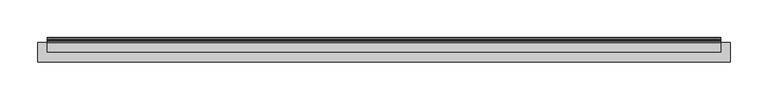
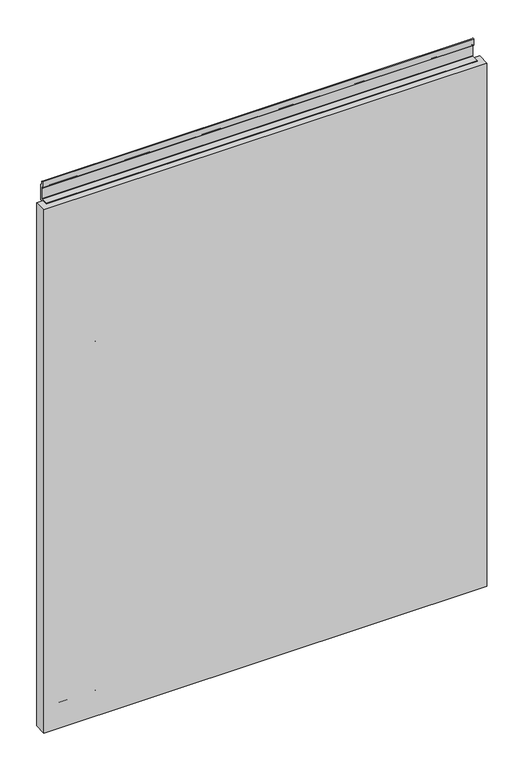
"""IFC4 building model written with IfcOpenShell, lengths in millimetres: furniture geometry, Geiger_GeigerOneCasegoods_WallTileAcceptsTileAboveFabric : Fabric 36Wx 1.25Dx 45H."""

from ifc_helpers import new_model, si_unit, point, frame, frame_2d, origin, origin_with_axes, place, context, project, spatial, polyline, circle_curve, trimmed, segment, composite_curve, outline, extrude, source, transform, mapped, element, save


def furniture_95511676(model_context):
    return source(origin(), model_context, "Body", "SweptSolid", [
        extrude(outline(composite_curve([segment(polyline([(-3.5052, 46.3366), (-2.6924, 45.5238), (-0.8128, 45.5238), (0.0, 44.7364), (0.0, 31.3197095)]), True, "CONTINUOUS"), segment(trimmed(circle_curve(frame_2d((-0.7973236, 31.3197095)), 0.7973236), [point((0.0, 31.3197095))], [point((-1.3611166, 30.7559166))], False, "CARTESIAN"), True, "CONTINUOUS"), segment(polyline([(-1.3611166, 30.7559166), (-2.8956, 32.2904), (-2.8956, 39.2246), (-3.7084, 40.012), (-5.6134, 40.012), (-6.4008, 40.8248), (-6.4008, 72.524), (-5.1054, 72.524), (-3.5052, 70.9238), (-3.5052, 46.3366)]), True, "CONTINUOUS")], self_intersect=False)), frame((50.0016, 0.0, 0.0), z_axis=(1.0, 0.0, 0.0), x_axis=(0.0, 1.0, 0.0)), (0.0, 0.0, 1.0), 75.9968),
        extrude(outline(composite_curve([segment(polyline([(-3.5052, 808.2186), (-2.6924, 807.4058), (-0.8128, 807.4058), (0.0, 806.6184), (0.0, 793.2017095)]), True, "CONTINUOUS"), segment(trimmed(circle_curve(frame_2d((-0.7973236, 793.2017095)), 0.7973236), [point((0.0, 793.2017095))], [point((-1.3611166, 792.6379166))], False, "CARTESIAN"), True, "CONTINUOUS"), segment(polyline([(-1.3611166, 792.6379166), (-2.8956, 794.1724), (-2.8956, 801.1066), (-3.7084, 801.894), (-5.6134, 801.894), (-6.4008, 802.7068), (-6.4008, 834.406), (-5.1054, 834.406), (-3.5052, 832.8058), (-3.5052, 808.2186)]), True, "CONTINUOUS")], self_intersect=False)), frame((50.0016, 0.0, 0.0), z_axis=(1.0, 0.0, 0.0), x_axis=(0.0, 1.0, 0.0)), (0.0, 0.0, 1.0), 75.9968),
        extrude(outline(composite_curve([segment(polyline([(-3.5052, 808.2186), (-2.6924, 807.4058), (-0.8128, 807.4058), (0.0, 806.6184), (0.0, 793.2017095)]), True, "CONTINUOUS"), segment(trimmed(circle_curve(frame_2d((-0.7973236, 793.2017095)), 0.7973236), [point((0.0, 793.2017095))], [point((-1.3611166, 792.6379166))], False, "CARTESIAN"), True, "CONTINUOUS"), segment(polyline([(-1.3611166, 792.6379166), (-2.8956, 794.1724), (-2.8956, 801.1066), (-3.7084, 801.894), (-5.6134, 801.894), (-6.4008, 802.7068), (-6.4008, 834.406), (-5.1054, 834.406), (-3.5052, 832.8058), (-3.5052, 808.2186)]), True, "CONTINUOUS")], self_intersect=False)), frame((788.4016, 0.0, 0.0), z_axis=(1.0, 0.0, 0.0), x_axis=(0.0, 1.0, 0.0)), (0.0, 0.0, 1.0), 75.9968),
        extrude(outline(composite_curve([segment(polyline([(-3.506, 800.1156), (-3.506, 793.1814), (-2.6932, 792.394), (-0.7882, 792.394), (-0.0008, 791.5812), (-0.0008, 759.882), (-1.2962, 759.882), (-2.8964, 761.4822), (-2.8964, 786.0694), (-3.7092, 786.8822), (-5.5888, 786.8822), (-6.4016, 787.6696), (-6.4016, 801.0883458)]), True, "CONTINUOUS"), segment(trimmed(circle_curve(frame_2d((-5.6051277, 801.0883458)), 0.7964723), [point((-6.4016, 801.0883458))], [point((-5.0419368, 801.6515368))], False, "CARTESIAN"), True, "CONTINUOUS"), segment(polyline([(-5.0419368, 801.6515368), (-3.506, 800.1156)]), True, "CONTINUOUS")], self_intersect=False)), frame((12.5, 0.0, 0.0), z_axis=(1.0, 0.0, 0.0), x_axis=(0.0, 1.0, 0.0)), (0.0, 0.0, 1.0), 889.4),
        extrude(outline(polyline([(914.4, -6.4008), (914.4, -32.4008), (0.0, -32.4008), (0.0, -6.4008), (914.4, -6.4008)])), origin_with_axes(), (0.0, 0.0, 1.0), 1142.0),
        extrude(outline(composite_curve([segment(polyline([(-3.5052, 46.3366), (-2.6924, 45.5238), (-0.8128, 45.5238), (0.0, 44.7364), (0.0, 31.3197095)]), True, "CONTINUOUS"), segment(trimmed(circle_curve(frame_2d((-0.7973236, 31.3197095)), 0.7973236), [point((0.0, 31.3197095))], [point((-1.3611166, 30.7559166))], False, "CARTESIAN"), True, "CONTINUOUS"), segment(polyline([(-1.3611166, 30.7559166), (-2.8956, 32.2904), (-2.8956, 39.2246), (-3.7084, 40.012), (-5.6134, 40.012), (-6.4008, 40.8248), (-6.4008, 72.524), (-5.1054, 72.524), (-3.5052, 70.9238), (-3.5052, 46.3366)]), True, "CONTINUOUS")], self_intersect=False)), frame((788.4, 0.0, 0.0), z_axis=(1.0, 0.0, 0.0), x_axis=(0.0, 1.0, 0.0)), (0.0, 0.0, 1.0), 76.0),
        extrude(outline(composite_curve([segment(polyline([(-3.5052, 1182.2336), (-3.5052, 1175.2994), (-2.7178, 1174.512), (-0.8128, 1174.512), (0.0, 1173.6992), (0.0, 1140.3998), (-2.6924, 1140.3998), (-3.5052, 1139.6124), (-3.5052, 1125.8964), (-2.6924, 1125.109), (0.0, 1125.109), (0.0, 1122.188), (-5.6134, 1122.188), (-6.4008, 1123.0008), (-6.4008, 1142.0), (-18.9992, 1142.0), (-18.9992, 1143.6002), (-3.7084, 1143.6002), (-2.8956, 1144.3876), (-2.8956, 1168.2128), (-3.7084, 1169.0002), (-5.6134, 1169.0002), (-6.4008, 1169.813), (-6.4008, 1183.2057925)]), True, "CONTINUOUS"), segment(trimmed(circle_curve(frame_2d((-5.6040985, 1183.2057925)), 0.7967015), [point((-6.4008, 1183.2057925))], [point((-5.0407455, 1183.7691455))], False, "CARTESIAN"), True, "CONTINUOUS"), segment(polyline([(-5.0407455, 1183.7691455), (-3.5052, 1182.2336)]), True, "CONTINUOUS")], self_intersect=False)), frame((12.5, 0.0, 0.0), z_axis=(1.0, 0.0, 0.0), x_axis=(0.0, 1.0, 0.0)), (0.0, 0.0, 1.0), 889.4),
    ])


if __name__ == "__main__":
    model = new_model("IFC4")
    model_context = context("Model", 3, world=origin())
    ifc_project = project(units=[si_unit("LENGTHUNIT", "METRE", prefix="MILLI")], contexts=[model_context])
    site = spatial("IfcSite", under=ifc_project)
    building = spatial("IfcBuilding", under=site)
    placement = place(None, origin())
    furniture_shape = furniture_95511676(model_context)
    element("IfcFurniture", 1, ObjectType="Geiger_GeigerOneCasegoods_WallTileAcceptsTileAboveFabric : Fabric 36Wx 1.25Dx 45H", at=placement, inside=building, context=model_context, shape_type="MappedRepresentation", body=[
        mapped(furniture_shape, transform((0.0, 0.0, 0.0), x_axis=(1.0, 0.0, 0.0), y_axis=(0.0, 1.0, 0.0), z_axis=(0.0, 0.0, 1.0))),
    ])
    save(model, "model.ifc")
